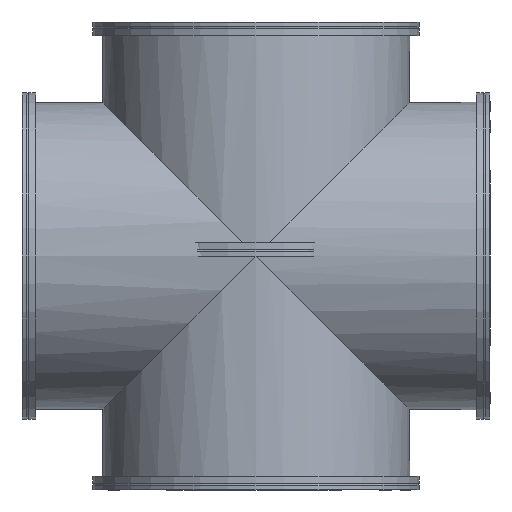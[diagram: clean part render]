
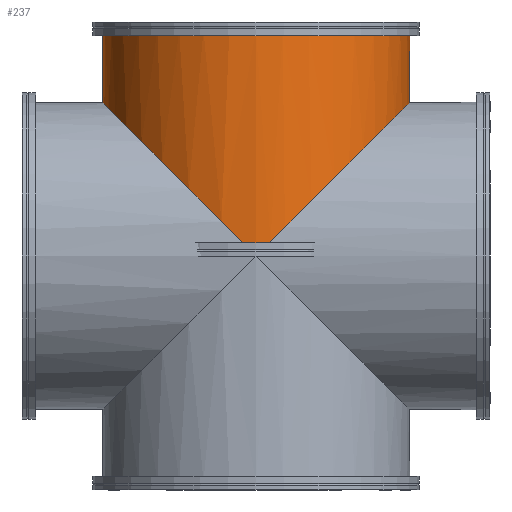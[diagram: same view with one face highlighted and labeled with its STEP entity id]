
A CAD part, front view. The second image highlights one B-rep face of the part: STEP entity #237.
In plain terms, the highlighted cylindrical face has radius 136.5 mm (diameter 273 mm), a full revolution.
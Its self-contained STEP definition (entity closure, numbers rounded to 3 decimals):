
#237 = ADVANCED_FACE( '', ( #322, #323 ), #324, .T. );
#322 = FACE_OUTER_BOUND( '', #382, .T. );
#323 = FACE_OUTER_BOUND( '', #383, .T. );
#324 = CYLINDRICAL_SURFACE( '', #384, 136.5 );
#382 = EDGE_LOOP( '', ( #454, #455 ) );
#383 = EDGE_LOOP( '', ( #456 ) );
#384 = AXIS2_PLACEMENT_3D( '', #457, #458, #459 );
#454 = ORIENTED_EDGE( '', *, *, #558, .F. );
#455 = ORIENTED_EDGE( '', *, *, #559, .F. );
#456 = ORIENTED_EDGE( '', *, *, #560, .T. );
#457 = CARTESIAN_POINT( '', ( 0., 0., 200.5 ) );
#458 = DIRECTION( '', ( 0., 0., 1. ) );
#459 = DIRECTION( '', ( -1., 0., 0. ) );
#558 = EDGE_CURVE( '', #610, #611, #612, .T. );
#559 = EDGE_CURVE( '', #611, #610, #613, .T. );
#560 = EDGE_CURVE( '', #614, #614, #615, .T. );
#610 = VERTEX_POINT( '', #638 );
#611 = VERTEX_POINT( '', #639 );
#612 = ELLIPSE( '', #640, 193.04, 136.5 );
#613 = ELLIPSE( '', #641, 193.04, 136.5 );
#614 = VERTEX_POINT( '', #642 );
#615 = CIRCLE( '', #643, 136.5 );
#638 = CARTESIAN_POINT( '', ( 0., -136.5, 0. ) );
#639 = CARTESIAN_POINT( '', ( 0., 136.5, 0. ) );
#640 = AXIS2_PLACEMENT_3D( '', #666, #667, #668 );
#641 = AXIS2_PLACEMENT_3D( '', #669, #670, #671 );
#642 = CARTESIAN_POINT( '', ( 136.5, 0., 200.5 ) );
#643 = AXIS2_PLACEMENT_3D( '', #672, #673, #674 );
#666 = CARTESIAN_POINT( '', ( 0., 0., 0. ) );
#667 = DIRECTION( '', ( -0.707, 0., -0.707 ) );
#668 = DIRECTION( '', ( 0.707, 0., -0.707 ) );
#669 = CARTESIAN_POINT( '', ( 0., 0., 0. ) );
#670 = DIRECTION( '', ( 0.707, 0., -0.707 ) );
#671 = DIRECTION( '', ( -0.707, 0., -0.707 ) );
#672 = CARTESIAN_POINT( '', ( 0., 0., 200.5 ) );
#673 = DIRECTION( '', ( 0., 0., -1. ) );
#674 = DIRECTION( '', ( 1., 0., 0. ) );
